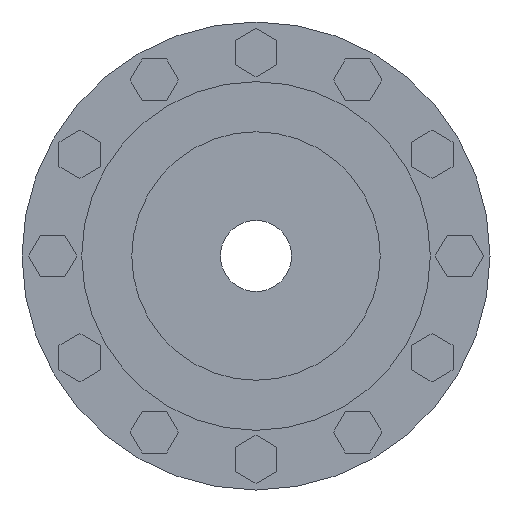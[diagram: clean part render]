
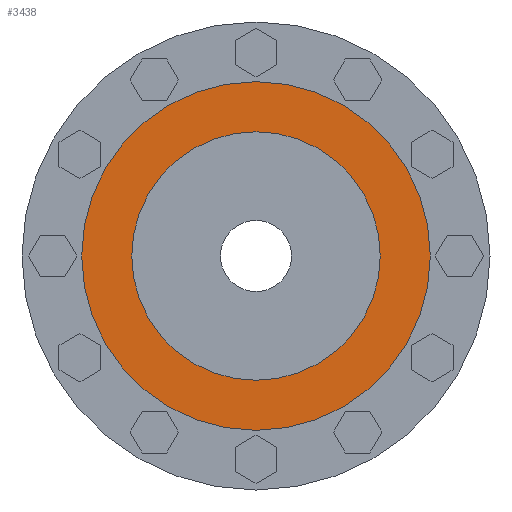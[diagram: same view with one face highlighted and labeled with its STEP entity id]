
A CAD part, left-side view. The second image highlights one B-rep face of the part: STEP entity #3438.
In plain terms, the highlighted planar face has unit normal (-1, 0, 0).
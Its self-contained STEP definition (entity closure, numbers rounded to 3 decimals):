
#661=CARTESIAN_POINT('',(-51.,0.,0.));
#662=DIRECTION('',(-1.,0.,0.));
#663=DIRECTION('',(0.,1.,0.));
#664=AXIS2_PLACEMENT_3D('',#661,#662,#663);
#666=CARTESIAN_POINT('',(-51.,0.,0.));
#667=DIRECTION('',(1.,0.,0.));
#668=DIRECTION('',(0.,1.,0.));
#669=AXIS2_PLACEMENT_3D('',#666,#667,#668);
#671=CARTESIAN_POINT('',(-51.,0.,0.));
#672=DIRECTION('',(1.,0.,0.));
#673=DIRECTION('',(0.,1.,0.));
#674=AXIS2_PLACEMENT_3D('',#671,#672,#673);
#676=CARTESIAN_POINT('',(-51.,0.,0.));
#677=DIRECTION('',(1.,0.,0.));
#678=DIRECTION('',(0.,-1.,0.));
#679=AXIS2_PLACEMENT_3D('',#676,#677,#678);
#2242=CARTESIAN_POINT('',(-51.,54.,0.));
#2244=VERTEX_POINT('',#2242);
#2254=CARTESIAN_POINT('',(-51.,-54.,0.));
#2256=VERTEX_POINT('',#2254);
#2942=CARTESIAN_POINT('',(-51.,38.5,0.));
#2944=VERTEX_POINT('',#2942);
#2950=CARTESIAN_POINT('',(-51.,-38.5,0.));
#2952=VERTEX_POINT('',#2950);
#3423=CARTESIAN_POINT('',(-51.,0.,0.));
#3424=DIRECTION('',(1.,0.,0.));
#3425=DIRECTION('',(0.,-1.,0.));
#3426=AXIS2_PLACEMENT_3D('',#3423,#3424,#3425);
#3427=PLANE('',#3426);
#3428=ORIENTED_EDGE('',*,*,#3416,.F.);
#3429=ORIENTED_EDGE('',*,*,#3405,.T.);
#3430=EDGE_LOOP('',(#3428,#3429));
#3431=FACE_OUTER_BOUND('',#3430,.F.);
#3433=ORIENTED_EDGE('',*,*,#3432,.F.);
#3435=ORIENTED_EDGE('',*,*,#3434,.F.);
#3436=EDGE_LOOP('',(#3433,#3435));
#3437=FACE_BOUND('',#3436,.F.);
#3438=ADVANCED_FACE('',(#3431,#3437),#3427,.F.);
#665=CIRCLE('',#664,54.);
#670=CIRCLE('',#669,54.);
#675=CIRCLE('',#674,38.5);
#680=CIRCLE('',#679,38.5);
#3405=EDGE_CURVE('',#2244,#2256,#670,.T.);
#3416=EDGE_CURVE('',#2244,#2256,#665,.T.);
#3432=EDGE_CURVE('',#2944,#2952,#675,.T.);
#3434=EDGE_CURVE('',#2952,#2944,#680,.T.);
